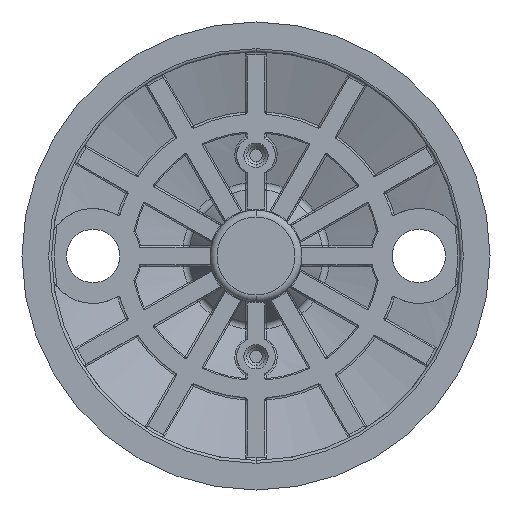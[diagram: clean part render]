
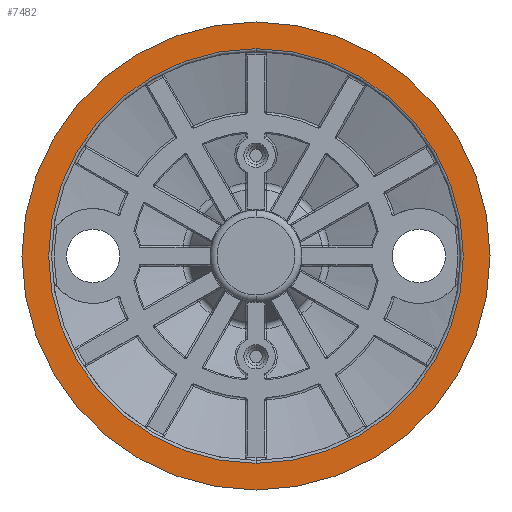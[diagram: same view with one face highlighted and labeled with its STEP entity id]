
A CAD part, front view. The second image highlights one B-rep face of the part: STEP entity #7482.
In plain terms, the highlighted planar face has unit normal (0, -1, 0).
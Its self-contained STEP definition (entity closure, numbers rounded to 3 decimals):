
#135=FACE_BOUND('',#1426,.T.);
#165=PLANE('',#8132);
#941=FACE_OUTER_BOUND('',#1425,.T.);
#1425=EDGE_LOOP('',(#5201,#5202));
#1426=EDGE_LOOP('',(#5203,#5204));
#2358=CIRCLE('',#7967,35.);
#2402=CIRCLE('',#8026,39.5);
#2461=CIRCLE('',#8133,39.5);
#2462=CIRCLE('',#8134,35.);
#2898=VERTEX_POINT('',#10999);
#2899=VERTEX_POINT('',#11000);
#2978=VERTEX_POINT('',#11299);
#2979=VERTEX_POINT('',#11300);
#3654=EDGE_CURVE('',#2898,#2899,#2358,.T.);
#3737=EDGE_CURVE('',#2978,#2979,#2402,.T.);
#3930=EDGE_CURVE('',#2979,#2978,#2461,.T.);
#3931=EDGE_CURVE('',#2899,#2898,#2462,.T.);
#5201=ORIENTED_EDGE('',*,*,#3737,.F.);
#5202=ORIENTED_EDGE('',*,*,#3930,.F.);
#5203=ORIENTED_EDGE('',*,*,#3931,.T.);
#5204=ORIENTED_EDGE('',*,*,#3654,.T.);
#7482=ADVANCED_FACE('',(#941,#135),#165,.T.);
#7967=AXIS2_PLACEMENT_3D('',#11001,#8928,#8929);
#8026=AXIS2_PLACEMENT_3D('',#11301,#9067,#9068);
#8132=AXIS2_PLACEMENT_3D('',#12270,#9330,#9331);
#8133=AXIS2_PLACEMENT_3D('',#12271,#9332,#9333);
#8134=AXIS2_PLACEMENT_3D('',#12272,#9334,#9335);
#8928=DIRECTION('center_axis',(0.,1.,0.));
#8929=DIRECTION('ref_axis',(0.,0.,-1.));
#9067=DIRECTION('center_axis',(0.,1.,0.));
#9068=DIRECTION('ref_axis',(0.,0.,1.));
#9330=DIRECTION('center_axis',(0.,-1.,0.));
#9331=DIRECTION('ref_axis',(0.,0.,-1.));
#9332=DIRECTION('center_axis',(0.,1.,0.));
#9333=DIRECTION('ref_axis',(0.,0.,1.));
#9334=DIRECTION('center_axis',(0.,1.,0.));
#9335=DIRECTION('ref_axis',(0.,0.,-1.));
#10999=CARTESIAN_POINT('',(39.5,0.,35.));
#11000=CARTESIAN_POINT('',(39.5,0.,-35.));
#11001=CARTESIAN_POINT('Origin',(39.5,0.,0.));
#11299=CARTESIAN_POINT('',(39.5,0.,39.5));
#11300=CARTESIAN_POINT('',(39.5,0.,-39.5));
#11301=CARTESIAN_POINT('Origin',(39.5,0.,0.));
#12270=CARTESIAN_POINT('Origin',(0.,0.,0.));
#12271=CARTESIAN_POINT('Origin',(39.5,0.,0.));
#12272=CARTESIAN_POINT('Origin',(39.5,0.,0.));
